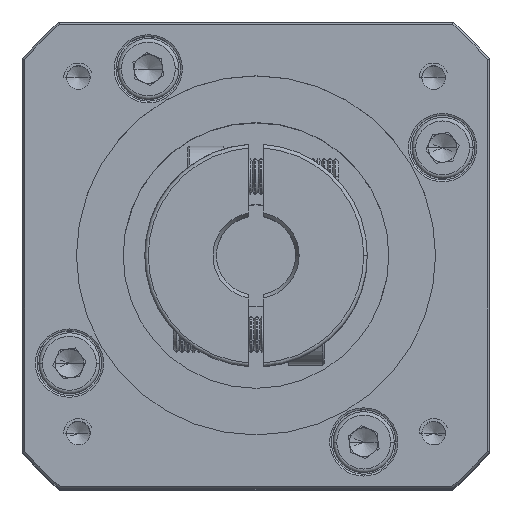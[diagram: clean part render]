
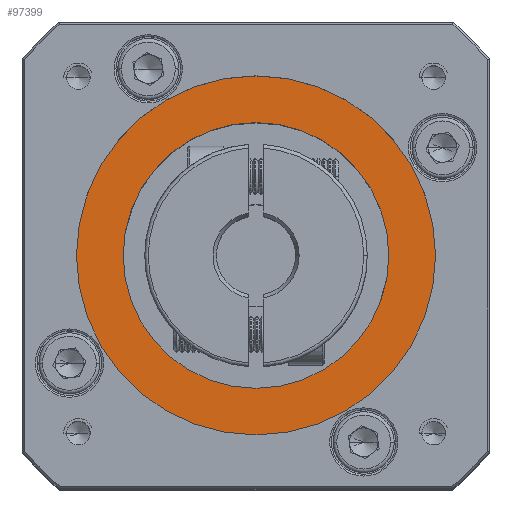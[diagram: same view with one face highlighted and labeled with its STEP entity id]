
A CAD part, top view. The second image highlights one B-rep face of the part: STEP entity #97399.
In plain terms, the highlighted planar face has unit normal (0, 0, 1).
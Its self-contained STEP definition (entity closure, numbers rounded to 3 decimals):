
#1326 = CARTESIAN_POINT ( 'NONE',  ( -24.543, 43.056, -2.01 ) ) ;
#2145 = DIRECTION ( 'NONE',  ( 0., 0., 1. ) ) ;
#7665 = AXIS2_PLACEMENT_3D ( 'NONE', #1326, #2145, #68675 ) ;
#10504 = DIRECTION ( 'NONE',  ( 0., 0., 1. ) ) ;
#16353 = DIRECTION ( 'NONE',  ( 0., 0., -1. ) ) ;
#18613 = CARTESIAN_POINT ( 'NONE',  ( -49.543, 43.056, -2.01 ) ) ;
#18743 = DIRECTION ( 'NONE',  ( 0., 0., 1. ) ) ;
#20130 = ORIENTED_EDGE ( 'NONE', *, *, #59160, .T. ) ;
#20970 = PLANE ( 'NONE',  #69503 ) ;
#24510 = FACE_OUTER_BOUND ( 'NONE', #52925, .T. ) ;
#33779 = ORIENTED_EDGE ( 'NONE', *, *, #64801, .T. ) ;
#34769 = VERTEX_POINT ( 'NONE', #107651 ) ;
#37852 = EDGE_CURVE ( 'NONE', #34769, #79143, #122437, .T. ) ;
#38109 = DIRECTION ( 'NONE',  ( 0., 0., -1. ) ) ;
#39719 = VERTEX_POINT ( 'NONE', #18613 ) ;
#43174 = AXIS2_PLACEMENT_3D ( 'NONE', #78074, #38109, #104800 ) ;
#49523 = VERTEX_POINT ( 'NONE', #54355 ) ;
#52925 = EDGE_LOOP ( 'NONE', ( #112325, #33779 ) ) ;
#52977 = CARTESIAN_POINT ( 'NONE',  ( -43.043, 43.056, -2.01 ) ) ;
#54328 = CIRCLE ( 'NONE', #104034, 25. ) ;
#54355 = CARTESIAN_POINT ( 'NONE',  ( 0.457, 43.056, -2.01 ) ) ;
#59160 = EDGE_CURVE ( 'NONE', #79143, #34769, #118331, .T. ) ;
#59168 = CARTESIAN_POINT ( 'NONE',  ( -24.543, 43.056, -2.01 ) ) ;
#62391 = CIRCLE ( 'NONE', #7665, 25. ) ;
#64801 = EDGE_CURVE ( 'NONE', #39719, #49523, #54328, .T. ) ;
#66113 = FACE_BOUND ( 'NONE', #66520, .T. ) ;
#66520 = EDGE_LOOP ( 'NONE', ( #90292, #20130 ) ) ;
#68675 = DIRECTION ( 'NONE',  ( 1., 0., 0. ) ) ;
#68753 = DIRECTION ( 'NONE',  ( 1., 0., 0. ) ) ;
#69471 = AXIS2_PLACEMENT_3D ( 'NONE', #92181, #16353, #112181 ) ;
#69503 = AXIS2_PLACEMENT_3D ( 'NONE', #59168, #10504, #68753 ) ;
#76544 = DIRECTION ( 'NONE',  ( 1., 0., 0. ) ) ;
#78074 = CARTESIAN_POINT ( 'NONE',  ( -24.543, 43.056, -2.01 ) ) ;
#79143 = VERTEX_POINT ( 'NONE', #52977 ) ;
#90292 = ORIENTED_EDGE ( 'NONE', *, *, #37852, .T. ) ;
#92181 = CARTESIAN_POINT ( 'NONE',  ( -24.543, 43.056, -2.01 ) ) ;
#94522 = CARTESIAN_POINT ( 'NONE',  ( -24.543, 43.056, -2.01 ) ) ;
#97399 = ADVANCED_FACE ( 'NONE', ( #24510, #66113 ), #20970, .T. ) ;
#104034 = AXIS2_PLACEMENT_3D ( 'NONE', #94522, #18743, #76544 ) ;
#104800 = DIRECTION ( 'NONE',  ( 1., 0., 0. ) ) ;
#107651 = CARTESIAN_POINT ( 'NONE',  ( -6.043, 43.056, -2.01 ) ) ;
#112181 = DIRECTION ( 'NONE',  ( 1., 0., 0. ) ) ;
#112325 = ORIENTED_EDGE ( 'NONE', *, *, #118890, .T. ) ;
#118331 = CIRCLE ( 'NONE', #43174, 18.5 ) ;
#118890 = EDGE_CURVE ( 'NONE', #49523, #39719, #62391, .T. ) ;
#122437 = CIRCLE ( 'NONE', #69471, 18.5 ) ;
